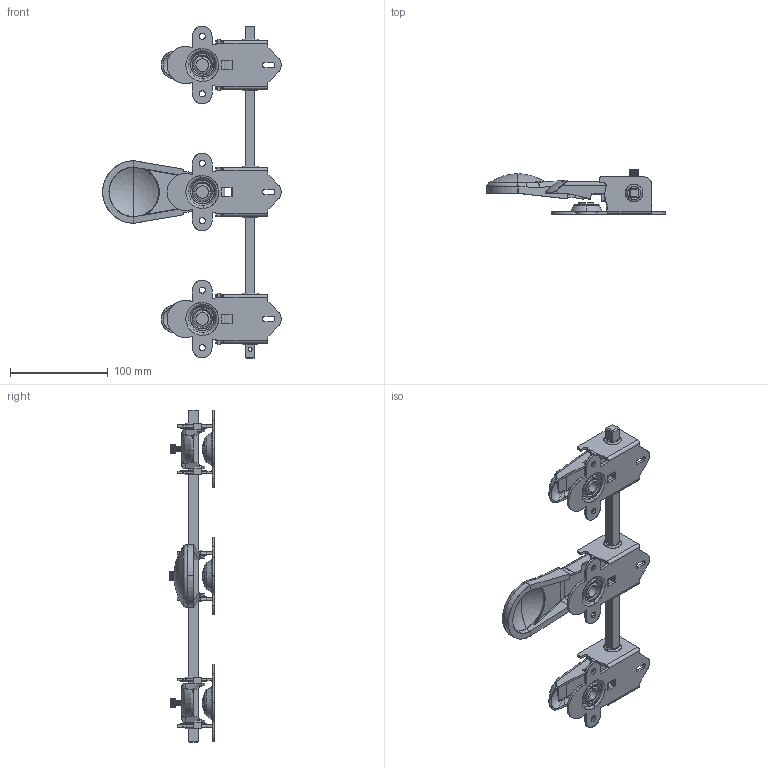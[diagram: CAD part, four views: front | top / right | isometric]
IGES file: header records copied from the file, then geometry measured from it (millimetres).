
Start section: SolidWorks IGES file using analytic representation for surfaces
Global section: file name: D:\尚坤工业图纸\SK1--门锁系列\SK1-622\SK1-622.IGS; native system: SolidWorks 2015; preprocessor: SolidWorks 2015; author: admin; date: 181101.111647; units: millimetre
Bounding box: 183 x 46 x 340 mm (x, y, z)
Surface area: 137109.6 mm2 (no closed solid volume)
Topology: 0 solids, 0 shells, 1657 faces, 21556 edges, 21506 vertices
Faces by surface type: revolution 946, bspline 711
